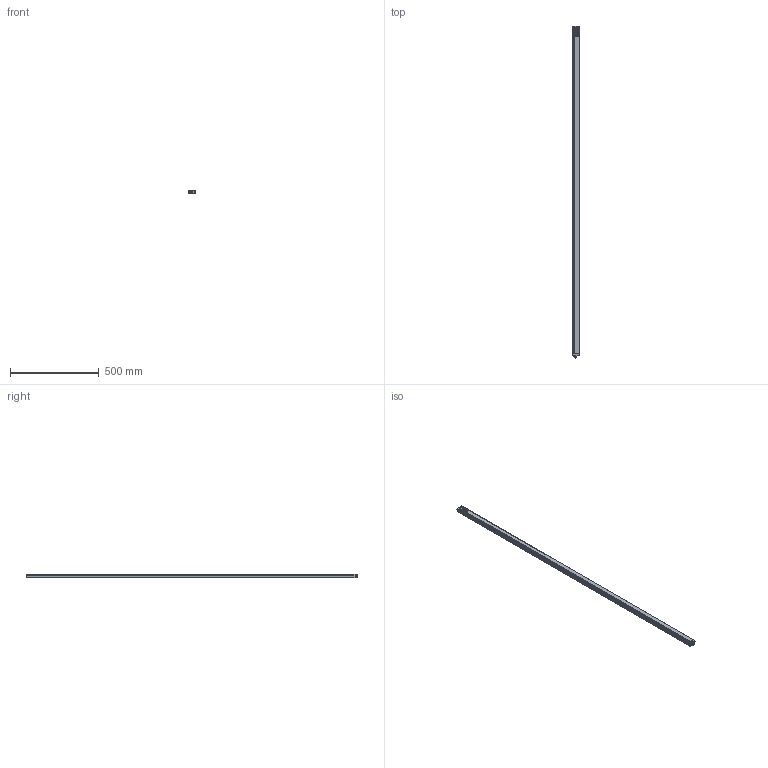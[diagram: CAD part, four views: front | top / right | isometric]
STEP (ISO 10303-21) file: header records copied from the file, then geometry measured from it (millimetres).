
FILE_DESCRIPTION(/* description */ (''),/* implementation_level */ '2;1');
FILE_NAME(/* name */ 'C:\Users\andre\SynologyDrive\Optoscan\Libreria Componenti\00 - Barriere\Barriera sorgente\Argo_1840_TX.stp',/* time_stamp */ '2021-04-22T10:28:15+02:00',/* author */ ('andre'),/* organization */ (''),/* preprocessor_version */ 'ST-DEVELOPER v18',/* originating_system */ 'Autodesk Inventor 2020',/* authorisation */ '');
FILE_SCHEMA (('AUTOMOTIVE_DESIGN { 1 0 10303 214 3 1 1 }'));
Length unit declared in the file: millimetre
Products named in the file (1): Argo_1840_TX
Bounding box: 40.5 x 1873.3 x 20.75 mm (x, y, z)
Volume: 369577.9 mm3; surface area: 486221.6 mm2
Topology: 1 solids, 1 shells, 696 faces, 1911 edges, 1225 vertices
Faces by surface type: plane 321, cylinder 195, bspline 94, torus 72, cone 8, sphere 6
Full cylindrical faces by diameter (mm): 1 x4, 2.459 x4, 2.5 x4, 3 x4, 3.5 x4, 5.5 x4, 8 x1, 10.5 x2, 11.75 x9, 15.7 x1, 17.5 x1
Entity records: 30770 total; most frequent: CARTESIAN_POINT 12670, ORIENTED_EDGE 3806, DIRECTION 3415, EDGE_CURVE 1903, VERTEX_POINT 1225, AXIS2_PLACEMENT_3D 1193, LINE 1029, VECTOR 1029
